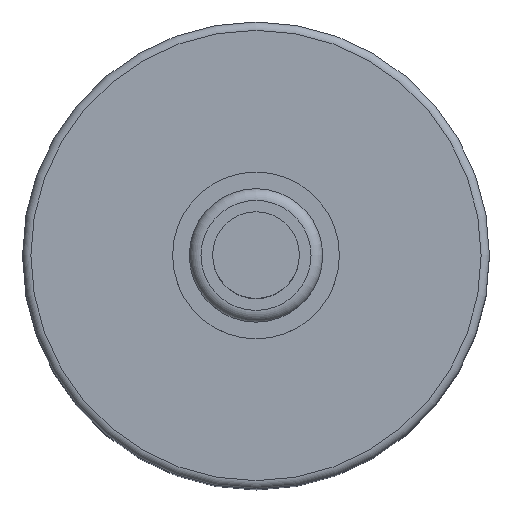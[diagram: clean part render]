
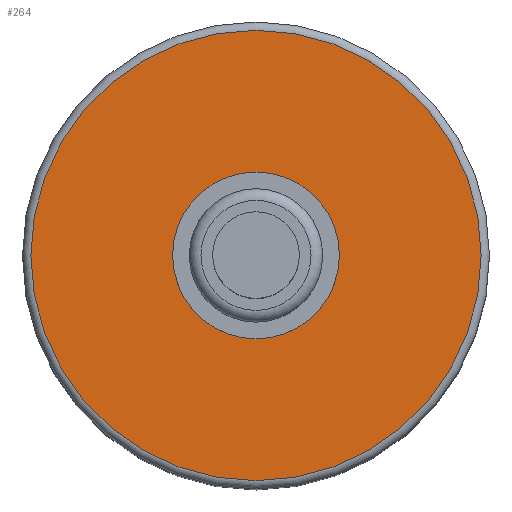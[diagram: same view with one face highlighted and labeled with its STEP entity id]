
A CAD part, top view. The second image highlights one B-rep face of the part: STEP entity #264.
In plain terms, the highlighted planar face has unit normal (0, 0, 1).
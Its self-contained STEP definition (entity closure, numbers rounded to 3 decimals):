
#181=CARTESIAN_POINT('',(5.0,0.,35.0));
#182=VERTEX_POINT('',#181);
#183=CARTESIAN_POINT('',(0.0,0.0,35.0));
#184=DIRECTION('',(0.0,0.0,-1.0));
#185=DIRECTION('',(-1.0,0.0,0.0));
#186=AXIS2_PLACEMENT_3D('',#183,#184,#185);
#187=CIRCLE('',#186,5.0);
#188=EDGE_CURVE('',#182,#182,#187,.T.);
#210=CARTESIAN_POINT('',(13.5,0.,35.0));
#211=VERTEX_POINT('',#210);
#212=CARTESIAN_POINT('',(0.0,0.0,35.0));
#213=DIRECTION('',(0.0,0.0,-1.0));
#214=DIRECTION('',(-1.0,0.0,0.0));
#215=AXIS2_PLACEMENT_3D('',#212,#213,#214);
#216=CIRCLE('',#215,13.5);
#217=EDGE_CURVE('',#211,#211,#216,.T.);
#253=CARTESIAN_POINT('',(0.0,0.0,35.0));
#254=DIRECTION('',(0.0,0.0,-1.0));
#255=DIRECTION('',(-1.0,0.0,0.0));
#256=AXIS2_PLACEMENT_3D('',#253,#254,#255);
#257=PLANE('',#256);
#258=ORIENTED_EDGE('',*,*,#217,.F.);
#259=EDGE_LOOP('',(#258));
#260=FACE_OUTER_BOUND('',#259,.T.);
#261=ORIENTED_EDGE('',*,*,#188,.T.);
#262=EDGE_LOOP('',(#261));
#263=FACE_BOUND('',#262,.T.);
#264=ADVANCED_FACE('',(#260,#263),#257,.F.);
